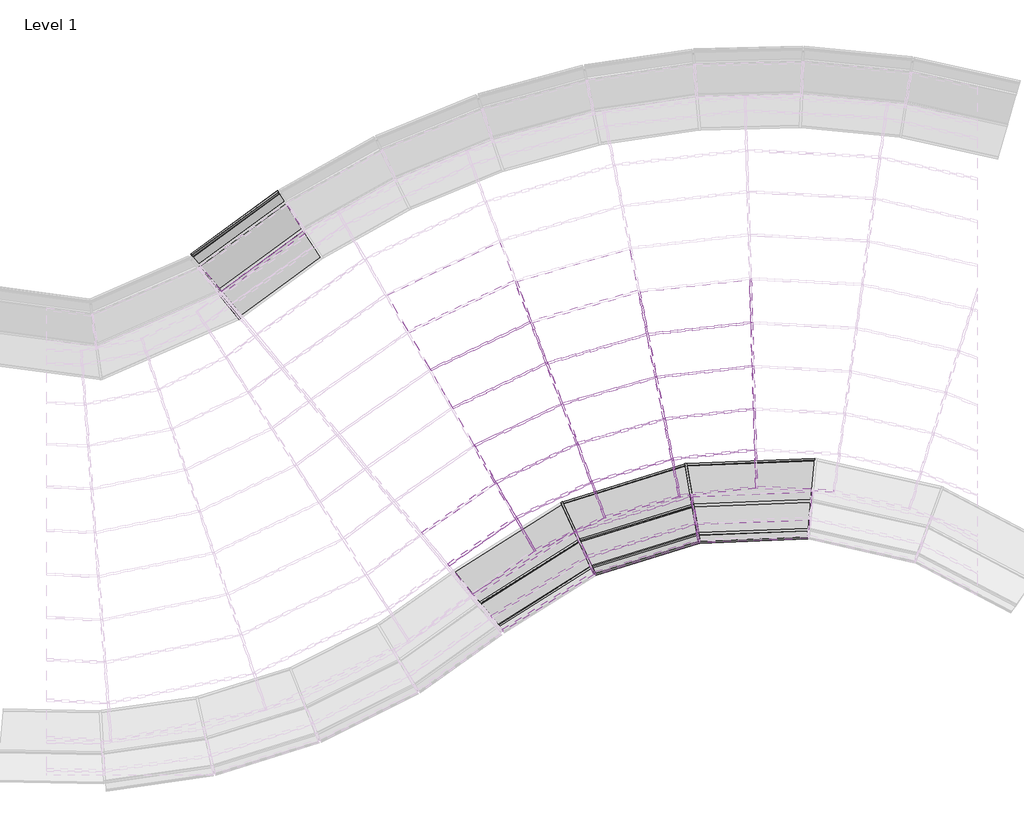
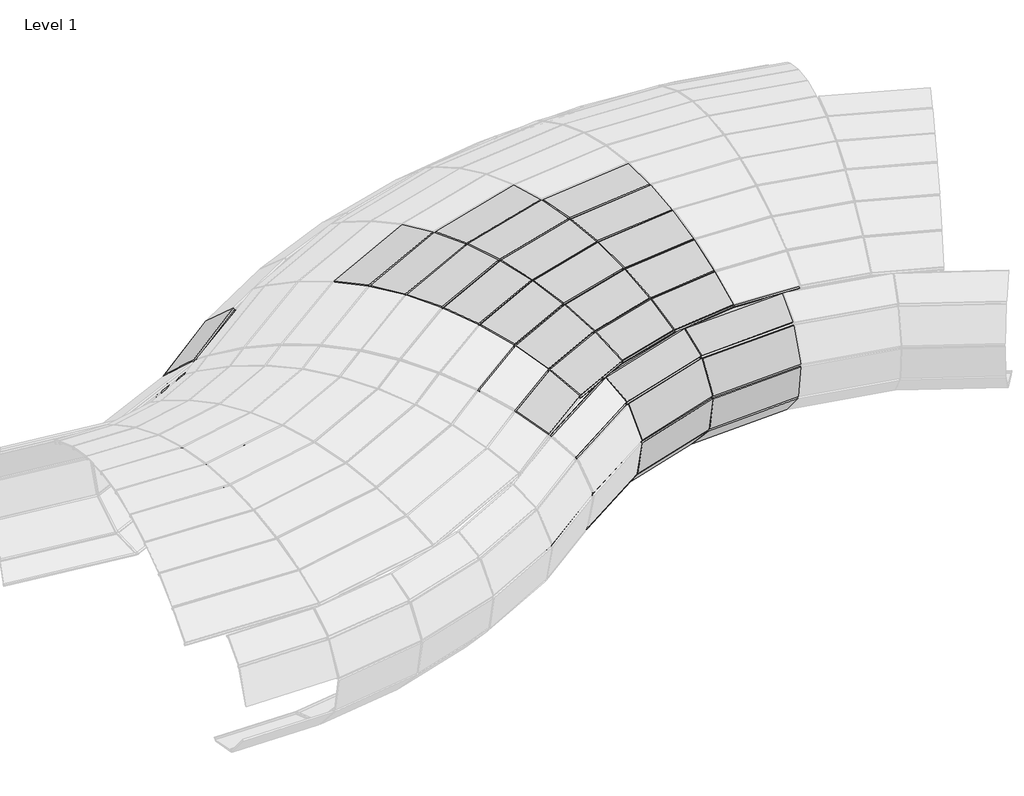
# One storey, part 8 of 23: 64 members, 36 plates.
"""IFC4 building model written with IfcOpenShell, lengths in millimetres."""

from ifc_helpers import new_model, si_unit, origin, place, context, project, spatial, transform, mapped, element, save
from components import member_a1596450, member_f2e23460, member_d6b8231b, member_a2486feb, member_bfa7dfb4, member_bff08ed3, member_8c9da58c, member_391bee44, member_01ebdf2a, member_8a20969f, member_4c2c1438, member_dcc4074c, member_4657b864, member_55ed2e9f, member_3a0dd7d7, member_3a6df916, member_088ab3f2, member_0cd36c09, member_d0141056, member_dae2b504, member_dc232313, member_e4cc2466, member_c628317b, member_562bdd2e, member_15538b30, member_3e3d858e, member_b147afb1, member_007022bd, system_panel_glazed_c5500596, system_panel_glazed_521f15da, system_panel_glazed_d2add3f3, system_panel_glazed_3632f886, system_panel_glazed_652ad043, system_panel_glazed_270d951d, system_panel_glazed_44ceaade, system_panel_glazed_ea9aaf36, system_panel_glazed_21d52e58, system_panel_glazed_aeac0244, system_panel_glazed_1a4c8fcb, system_panel_glazed_6963cb6b, system_panel_glazed_079fee55, system_panel_glazed_1b2c1e4f, system_panel_glazed_33c7ebbf, system_panel_glazed_9ff9c314, system_panel_glazed_73e28ea5, system_panel_glazed_e3c53362, system_panel_glazed_2d21b99e, system_panel_glazed_1352d32b

model = new_model("IFC4")

# Units and contexts
model_context = context("Model", 3, world=origin())
ifc_project = project(units=[si_unit("LENGTHUNIT", "METRE", prefix="MILLI")], contexts=[model_context])

# Site, building, storey
site = spatial("IfcSite", under=ifc_project)
building = spatial("IfcBuilding", under=site)
storey = spatial("IfcBuildingStorey", under=building, Name="Level 1", Elevation=0.0)

# Members
placement = place(None, origin())
member_shape = member_a1596450(model_context)
element("IfcMember", 1, ObjectType="Rectangular Mullion : 1\" Square", at=placement, inside=storey, context=model_context, shape_type="MappedRepresentation", body=[
    mapped(member_shape, transform((-1111.8650717, -7337.0860284, 629.7792003), x_axis=(0.12543134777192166, -0.40412266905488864, 0.9060639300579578), y_axis=(0.2685839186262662, -0.8653406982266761, -0.4231408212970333), z_axis=(0.9550547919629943, 0.29642932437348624, 0.0))),
])
member_2_shape = member_f2e23460(model_context)
element("IfcMember", 2, ObjectType="Rectangular Mullion : 1\" Square", at=placement, inside=storey, context=model_context, shape_type="MappedRepresentation", body=[
    mapped(member_2_shape, transform((-2753.3298579, -7433.4239268, 170.8694653), x_axis=(0.4499356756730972, -0.7143075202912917, 0.5360248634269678), y_axis=(0.2856859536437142, -0.4535484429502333, -0.8442021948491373), z_axis=(0.8461332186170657, 0.5329714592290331, 0.0))),
])
member_3_shape = member_d6b8231b(model_context)
element("IfcMember", 3, ObjectType="Rectangular Mullion : 1\" Square", at=placement, inside=storey, context=model_context, shape_type="MappedRepresentation", body=[
    mapped(member_3_shape, transform((-2987.3349348, -6895.1359054, 0.0), x_axis=(0.9083268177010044, 0.4182611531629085, 0.0), y_axis=(0.11723763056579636, -0.25460189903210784, -0.9599131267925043), z_axis=(-0.40149437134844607, 0.8719148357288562, -0.280297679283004))),
])
element("IfcMember", 4, ObjectType="Rectangular Mullion : 1\" Square", at=placement, inside=storey, context=model_context, shape_type="MappedRepresentation", body=[
    mapped(member_3_shape, transform((-1266.9851756, -6361.1747954, 0.0), x_axis=(0.9855215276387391, 0.1695503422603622, 0.0), y_axis=(0.04752456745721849, -0.276239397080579, -0.9599131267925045), z_axis=(-0.16275359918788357, 0.9460150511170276, -0.2802976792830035))),
])
member_4_shape = member_a2486feb(model_context)
element("IfcMember", 5, ObjectType="Rectangular Mullion : 1\" Square", at=placement, inside=storey, context=model_context, shape_type="MappedRepresentation", body=[
    mapped(member_4_shape, transform((-1179.8997774, -6941.630223, 170.8694653), x_axis=(0.2502462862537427, -0.8062593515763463, 0.5360248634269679), y_axis=(0.15889348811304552, -0.5119331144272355, -0.8442021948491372), z_axis=(0.9550547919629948, 0.29642932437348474, 0.0))),
])
member_5_shape = member_bfa7dfb4(model_context)
element("IfcMember", 6, ObjectType="Rectangular Mullion : 1\" Square", at=placement, inside=storey, context=model_context, shape_type="MappedRepresentation", body=[
    mapped(member_5_shape, transform((-2585.49608, -7797.9041569, 629.7792003), x_axis=(0.22552198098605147, -0.35803350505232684, 0.9060639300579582), y_axis=(0.48290621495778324, -0.7666507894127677, -0.4231408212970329), z_axis=(0.8461332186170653, 0.5329714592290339, 0.0))),
])
member_6_shape = member_bff08ed3(model_context)
element("IfcMember", 7, ObjectType="Rectangular Mullion : 1\" Square", at=placement, inside=storey, context=model_context, shape_type="MappedRepresentation", body=[
    mapped(member_6_shape, transform((-2975.2057389, -6891.371253, 0.0), x_axis=(-0.28435381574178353, 0.916149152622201, -0.2825130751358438), y_axis=(0.08374515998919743, -0.2698154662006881, -0.9592634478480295), z_axis=(-0.9550547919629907, -0.2964293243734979, 0.0))),
])
element("IfcMember", 8, ObjectType="Rectangular Mullion : 1\" Square", at=placement, inside=storey, context=model_context, shape_type="MappedRepresentation", body=[
    mapped(member_6_shape, transform((-1254.2952304, -6360.6695321, 0.0), x_axis=(-0.0381638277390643, 0.958503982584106, -0.28251307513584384), y_axis=(0.011239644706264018, -0.2822894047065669, -0.9592634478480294), z_axis=(-0.999208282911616, -0.03978451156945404, 0.0))),
])
member_7_shape = member_8c9da58c(model_context)
element("IfcMember", 9, ObjectType="Rectangular Mullion : 1\" Square", at=placement, inside=storey, context=model_context, shape_type="MappedRepresentation", body=[
    mapped(member_7_shape, transform((-2742.583966, -7426.6551893, 170.8694653), x_axis=(0.9083268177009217, 0.41826115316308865, 0.0), y_axis=(0.3148689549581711, -0.6837926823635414, -0.6582439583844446), z_axis=(-0.27531787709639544, 0.5979006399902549, -0.7528046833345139))),
])
element("IfcMember", 10, ObjectType="Rectangular Mullion : 1\" Square", at=placement, inside=storey, context=model_context, shape_type="MappedRepresentation", body=[
    mapped(member_7_shape, transform((-2574.7501881, -7791.1354194, 629.7792003), x_axis=(0.9083268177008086, 0.418261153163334, 0.0), y_axis=(0.4135473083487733, -0.8980898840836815, -0.14971033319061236), z_axis=(-0.06261801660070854, 0.13598591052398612, -0.9887299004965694))),
])
element("IfcMember", 11, ObjectType="Rectangular Mullion : 1\" Square", at=placement, inside=storey, context=model_context, shape_type="MappedRepresentation", body=[
    mapped(member_7_shape, transform((-1167.7705815, -6937.8655706, 170.8694653), x_axis=(0.9855215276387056, 0.16955034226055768, 0.0), y_axis=(0.12763829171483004, -0.7419052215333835, -0.6582439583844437), z_axis=(-0.11160548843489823, 0.6487135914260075, -0.7528046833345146))),
])
element("IfcMember", 12, ObjectType="Rectangular Mullion : 1\" Square", at=placement, inside=storey, context=model_context, shape_type="MappedRepresentation", body=[
    mapped(member_7_shape, transform((-1099.7358758, -7333.3213759, 629.7792003), x_axis=(0.9855215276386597, 0.16955034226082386, 0.0), y_axis=(0.16763949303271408, -0.9744146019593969, -0.1497103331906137), z_axis=(-0.025383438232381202, 0.1475427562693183, -0.9887299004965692))),
])
member_8_shape = member_391bee44(model_context)
element("IfcMember", 13, ObjectType="Rectangular Mullion : 1\" Square", at=placement, inside=storey, context=model_context, shape_type="MappedRepresentation", body=[
    mapped(member_8_shape, transform((-2536.5782452, -7874.0324305, 1232.5089476), x_axis=(0.9083268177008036, 0.4182611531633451, 0.0), y_axis=(0.3822613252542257, -0.8301469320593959, 0.4058723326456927), z_axis=(0.16976062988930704, -0.3686647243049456, -0.9139297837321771))),
])
element("IfcMember", 14, ObjectType="Rectangular Mullion : 1\" Square", at=placement, inside=storey, context=model_context, shape_type="MappedRepresentation", body=[
    mapped(member_8_shape, transform((-1084.2621319, -7423.2634402, 1232.5089476), x_axis=(0.9855215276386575, 0.16955034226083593, 0.0), y_axis=(0.1549571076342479, -0.9006974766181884, 0.4058723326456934), z_axis=(0.06881579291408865, -0.3999959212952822, -0.9139297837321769))),
])
member_9_shape = member_01ebdf2a(model_context)
element("IfcMember", 15, ObjectType="Rectangular Mullion : 1\" Square", at=placement, inside=storey, context=model_context, shape_type="MappedRepresentation", body=[
    mapped(member_9_shape, transform((-2640.0643252, -7649.2944145, 1789.6405438), x_axis=(0.9083268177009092, 0.4182611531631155, 0.0), y_axis=(0.24922510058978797, -0.541235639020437, 0.8030883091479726), z_axis=(0.3359006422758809, -0.7294666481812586, -0.5958600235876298))),
])
element("IfcMember", 16, ObjectType="Rectangular Mullion : 1\" Square", at=placement, inside=storey, context=model_context, shape_type="MappedRepresentation", body=[
    mapped(member_9_shape, transform((-1126.2122392, -7179.4259265, 1789.6405438), x_axis=(0.9855215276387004, 0.16955034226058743, 0.0), y_axis=(0.10102827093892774, -0.5872328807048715, 0.8030883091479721), z_axis=(0.13616389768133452, -0.7914608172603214, -0.5958600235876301))),
])
member_10_shape = member_8a20969f(model_context)
element("IfcMember", 17, ObjectType="Rectangular Mullion : 1\" Square", at=placement, inside=storey, context=model_context, shape_type="MappedRepresentation", body=[
    mapped(member_10_shape, transform((-2547.3241371, -7880.801168, 1232.5089476), x_axis=(-0.07158711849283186, 0.11365006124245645, 0.9909384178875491), y_axis=(0.5281418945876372, -0.8384659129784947, 0.13431698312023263), z_axis=(0.8461332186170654, 0.5329714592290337, 0.0))),
])
member_11_shape = member_4c2c1438(model_context)
element("IfcMember", 18, ObjectType="Rectangular Mullion : 1\" Square", at=placement, inside=storey, context=model_context, shape_type="MappedRepresentation", body=[
    mapped(member_11_shape, transform((-1096.3913277, -7427.0280926, 1232.5089476), x_axis=(-0.039815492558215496, 0.12828007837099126, 0.9909384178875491), y_axis=(0.2937432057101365, -0.9464004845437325, 0.13431698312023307), z_axis=(0.9550547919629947, 0.2964293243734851, 0.0))),
])
member_12_shape = member_dcc4074c(model_context)
element("IfcMember", 19, ObjectType="Rectangular Mullion : 1\" Square", at=placement, inside=storey, context=model_context, shape_type="MappedRepresentation", body=[
    mapped(member_12_shape, transform((-2650.8102171, -7656.0631521, 1789.6405438), x_axis=(-0.34544370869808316, 0.54841847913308, 0.7615154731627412), y_axis=(0.4058660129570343, -0.6443435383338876, 0.6481467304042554), z_axis=(0.8461332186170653, 0.5329714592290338, 0.0))),
])
member_13_shape = member_4657b864(model_context)
element("IfcMember", 20, ObjectType="Rectangular Mullion : 1\" Square", at=placement, inside=storey, context=model_context, shape_type="MappedRepresentation", body=[
    mapped(member_13_shape, transform((-1138.3414351, -7183.190579, 1789.6405438), x_axis=(-0.19212969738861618, 0.61901564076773, 0.7615154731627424), y_axis=(0.22573551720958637, -0.7272890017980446, 0.648146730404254), z_axis=(0.9550547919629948, 0.2964293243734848, 0.0))),
])
member_14_shape = member_55ed2e9f(model_context)
element("IfcMember", 21, ObjectType="Rectangular Mullion : 1\" Square", at=placement, inside=storey, context=model_context, shape_type="MappedRepresentation", body=[
    mapped(member_14_shape, transform((-2817.6547413, -7293.7312581, 2085.6089632), x_axis=(-0.4267186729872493, 0.6774487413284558, 0.5991447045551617), y_axis=(0.3193270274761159, -0.5069562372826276, 0.8006407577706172), z_axis=(0.846133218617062, 0.5329714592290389, 0.0))),
])
member_15_shape = member_3a0dd7d7(model_context)
element("IfcMember", 22, ObjectType="Rectangular Mullion : 1\" Square", at=placement, inside=storey, context=model_context, shape_type="MappedRepresentation", body=[
    mapped(member_15_shape, transform((-1205.9751275, -6790.0656875, 2085.6089632), x_axis=(-0.23733339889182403, 0.7646557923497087, 0.5991447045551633), y_axis=(0.17760405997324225, -0.5722160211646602, 0.800640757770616), z_axis=(0.9550547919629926, 0.2964293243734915, 0.0))),
])
member_16_shape = member_3a6df916(model_context)
element("IfcMember", 23, ObjectType="Rectangular Mullion : 1\" Square", at=placement, inside=storey, context=model_context, shape_type="MappedRepresentation", body=[
    mapped(member_16_shape, transform((-2993.9949592, -5535.8741986, 2763.3769688), x_axis=(-0.42081879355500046, 0.8846592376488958, 0.20072263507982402), y_axis=(0.08622265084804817, -0.18126011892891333, 0.9796481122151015), z_axis=(0.9030377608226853, 0.4295611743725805, 0.0))),
])
element("IfcMember", 24, ObjectType="Rectangular Mullion : 1\" Square", at=placement, inside=storey, context=model_context, shape_type="MappedRepresentation", body=[
    mapped(member_16_shape, transform((-1693.052363, -5162.1086673, 2763.3769688), x_axis=(-0.2690550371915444, 0.9419765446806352, 0.20072263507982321), y_axis=(0.05512738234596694, -0.19300401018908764, 0.9796481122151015), z_axis=(0.9615458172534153, 0.2746445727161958, 0.0))),
])
element("IfcMember", 25, ObjectType="Rectangular Mullion : 1\" Square", at=placement, inside=storey, context=model_context, shape_type="MappedRepresentation", body=[
    mapped(member_16_shape, transform((-348.2653143, -5008.1602847, 2763.3769688), x_axis=(-0.10991316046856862, 0.9734626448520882, 0.2007226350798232), y_axis=(0.022520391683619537, -0.1994552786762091, 0.9796481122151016), z_axis=(0.9936860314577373, 0.11219657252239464, 0.0))),
])
member_17_shape = member_088ab3f2(model_context)
element("IfcMember", 26, ObjectType="Rectangular Mullion : 1\" Square", at=placement, inside=storey, context=model_context, shape_type="MappedRepresentation", body=[
    mapped(member_17_shape, transform((-3207.1818204, -4971.4017811, 2850.17796), x_axis=(-0.42807772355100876, 0.8999192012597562, 0.08303549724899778), y_axis=(0.035668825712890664, -0.07498418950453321, 0.9965465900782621), z_axis=(0.9030377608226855, 0.4295611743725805, 0.0))),
])
element("IfcMember", 27, ObjectType="Rectangular Mullion : 1\" Square", at=placement, inside=storey, context=model_context, shape_type="MappedRepresentation", body=[
    mapped(member_17_shape, transform((-1810.1622416, -4570.193957, 2850.17796), x_axis=(-0.2736961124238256, 0.9582252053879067, 0.08303549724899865), y_axis=(0.02280524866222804, -0.07984243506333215, 0.996546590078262), z_axis=(0.9615458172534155, 0.27464457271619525, 0.0))),
])
element("IfcMember", 28, ObjectType="Rectangular Mullion : 1\" Square", at=placement, inside=storey, context=model_context, shape_type="MappedRepresentation", body=[
    mapped(member_17_shape, transform((-366.0867826, -4405.0349717, 2850.17796), x_axis=(-0.11180911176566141, 0.9902544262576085, 0.08303549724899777), y_axis=(0.00931629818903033, -0.08251121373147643, 0.9965465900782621), z_axis=(0.9936860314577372, 0.11219657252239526, 0.0))),
])
member_18_shape = member_0cd36c09(model_context)
element("IfcMember", 29, ObjectType="Rectangular Mullion : 1\" Square", at=placement, inside=storey, context=model_context, shape_type="MappedRepresentation", body=[
    mapped(member_18_shape, transform((-3624.4488944, -7109.8675314, 2378.3537392), x_axis=(0.8643700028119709, 0.5028563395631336, 0.0), y_axis=(0.18725057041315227, -0.3218688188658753, 0.9280828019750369), z_axis=(0.4666923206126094, -0.802206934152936, -0.37237388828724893))),
])
element("IfcMember", 30, ObjectType="Rectangular Mullion : 1\" Square", at=placement, inside=storey, context=model_context, shape_type="MappedRepresentation", body=[
    mapped(member_18_shape, transform((-3908.9445331, -6620.8421843, 2605.3528615), x_axis=(0.8643700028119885, 0.5028563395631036, 0.0), y_axis=(0.130353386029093, -0.2240670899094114, 0.9658167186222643), z_axis=(0.4856670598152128, -0.8348229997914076, -0.2592258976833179))),
])
element("IfcMember", 31, ObjectType="Rectangular Mullion : 1\" Square", at=placement, inside=storey, context=model_context, shape_type="MappedRepresentation", body=[
    mapped(member_18_shape, transform((-2574.6155271, -6610.4779447, 2378.3537392), x_axis=(0.9355040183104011, 0.353316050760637, 0.0), y_axis=(0.13156567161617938, -0.3483572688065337, 0.9280828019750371), z_axis=(0.3279065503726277, -0.8682251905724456, -0.3723738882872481))),
])
element("IfcMember", 32, ObjectType="Rectangular Mullion : 1\" Square", at=placement, inside=storey, context=model_context, shape_type="MappedRepresentation", body=[
    mapped(member_18_shape, transform((-2774.5073603, -6081.2078685, 2605.3528615), x_axis=(0.9355040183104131, 0.3533160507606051, 0.0), y_axis=(0.09158867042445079, -0.242506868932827, 0.9658167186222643), z_axis=(0.341238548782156, -0.9035254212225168, -0.25922589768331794))),
])
element("IfcMember", 33, ObjectType="Rectangular Mullion : 1\" Square", at=placement, inside=storey, context=model_context, shape_type="MappedRepresentation", body=[
    mapped(member_18_shape, transform((-2982.5263796, -5530.4187717, 2763.3769688), x_axis=(0.9355040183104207, 0.353316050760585, 0.0), y_axis=(0.05030869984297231, -0.13320648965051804, 0.9898106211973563), z_axis=(0.3497159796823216, -0.9259718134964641, -0.14239007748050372))),
])
element("IfcMember", 34, ObjectType="Rectangular Mullion : 1\" Square", at=placement, inside=storey, context=model_context, shape_type="MappedRepresentation", body=[
    mapped(member_18_shape, transform((-3195.7132408, -4965.9463542, 2850.17796), x_axis=(0.9355040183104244, 0.35331605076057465, 0.0), y_axis=(0.00831302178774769, -0.022011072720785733, 0.9997231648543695), z_axis=(0.3532182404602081, -0.9352450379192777, -0.023528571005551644))),
])
element("IfcMember", 35, ObjectType="Rectangular Mullion : 1\" Square", at=placement, inside=storey, context=model_context, shape_type="MappedRepresentation", body=[
    mapped(member_18_shape, transform((-1456.7631771, -6291.1878229, 2378.3537392), x_axis=(0.9809843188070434, 0.19408700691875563, 0.0), y_axis=(0.0722729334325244, -0.3652929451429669, 0.9280828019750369), z_axis=(0.18012881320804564, -0.9104346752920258, -0.37237388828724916))),
])
element("IfcMember", 36, ObjectType="Rectangular Mullion : 1\" Square", at=placement, inside=storey, context=model_context, shape_type="MappedRepresentation", body=[
    mapped(member_18_shape, transform((-1566.5697016, -5736.1868449, 2605.3528615), x_axis=(0.9809843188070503, 0.19408700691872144, 0.0), y_axis=(0.05031237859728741, -0.254296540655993, 0.9658167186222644), z_axis=(0.18745247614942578, -0.9474510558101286, -0.2592258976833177))),
])
element("IfcMember", 37, ObjectType="Rectangular Mullion : 1\" Square", at=placement, inside=storey, context=model_context, shape_type="MappedRepresentation", body=[
    mapped(member_18_shape, transform((-1680.8407311, -5158.6206813, 2763.3769688), x_axis=(0.9809843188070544, 0.19408700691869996, 0.0), y_axis=(0.027636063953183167, -0.13968243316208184, 0.9898106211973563), z_axis=(0.19210938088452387, -0.9709886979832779, -0.14239007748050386))),
])
element("IfcMember", 38, ObjectType="Rectangular Mullion : 1\" Square", at=placement, inside=storey, context=model_context, shape_type="MappedRepresentation", body=[
    mapped(member_18_shape, transform((-1797.9506097, -4566.705971, 2850.17796), x_axis=(0.9809843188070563, 0.19408700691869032, 0.0), y_axis=(0.004566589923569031, -0.023081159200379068, 0.9997231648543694), z_axis=(0.19403327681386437, -0.9807127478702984, -0.023528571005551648))),
])
element("IfcMember", 39, ObjectType="Rectangular Mullion : 1\" Square", at=placement, inside=storey, context=model_context, shape_type="MappedRepresentation", body=[
    mapped(member_18_shape, transform((-301.5459784, -6160.7528504, 2378.3537392), x_axis=(0.9995637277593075, 0.02953564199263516, 0.0), y_axis=(0.010998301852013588, -0.3722114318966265, 0.9280828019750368), z_axis=(0.027411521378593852, -0.9276779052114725, -0.3723738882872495))),
])
element("IfcMember", 40, ObjectType="Rectangular Mullion : 1\" Square", at=placement, inside=storey, context=model_context, shape_type="MappedRepresentation", body=[
    mapped(member_18_shape, transform((-318.2560418, -5595.2403994, 2605.3528615), x_axis=(0.9995637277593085, 0.029535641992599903, 0.0), y_axis=(0.00765640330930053, -0.2591128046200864, 0.9658167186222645), z_axis=(0.02852601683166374, -0.9653953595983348, -0.25922589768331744))),
])
element("IfcMember", 41, ObjectType="Rectangular Mullion : 1\" Square", at=placement, inside=storey, context=model_context, shape_type="MappedRepresentation", body=[
    mapped(member_18_shape, transform((-335.6455017, -5006.7353882, 2763.3769688), x_axis=(0.9995637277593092, 0.02953564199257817, 0.0), y_axis=(0.004205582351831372, -0.14232795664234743, 0.9898106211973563), z_axis=(0.02923469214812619, -0.989378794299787, -0.14239007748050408))),
])
element("IfcMember", 42, ObjectType="Rectangular Mullion : 1\" Square", at=placement, inside=storey, context=model_context, shape_type="MappedRepresentation", body=[
    mapped(member_18_shape, transform((-353.46697, -4403.6100752, 2850.17796), x_axis=(0.9995637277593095, 0.029535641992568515, 0.0), y_axis=(0.0006949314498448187, -0.023518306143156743, 0.9997231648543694), z_axis=(0.02952746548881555, -0.9992870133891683, -0.02352857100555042))),
])
element("IfcMember", 43, ObjectType="Rectangular Mullion : 1\" Square", at=placement, inside=storey, context=model_context, shape_type="MappedRepresentation", body=[
    mapped(member_18_shape, transform((-3411.0350802, -4395.8209791, 2864.5209769), x_axis=(0.935504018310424, 0.3533160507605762, 0.0), y_axis=(-0.033800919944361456, 0.08949748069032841, 0.9954133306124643), z_axis=(0.35169550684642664, -0.9312131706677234, 0.095667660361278))),
])
member_19_shape = member_d0141056(model_context)
element("IfcMember", 44, ObjectType="Rectangular Mullion : 1\" Square", at=placement, inside=storey, context=model_context, shape_type="MappedRepresentation", body=[
    mapped(member_19_shape, transform((-1578.7813335, -5739.674831, 2605.3528615), x_axis=(-0.2606075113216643, 0.9124012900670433, 0.3156067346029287), y_axis=(0.08667967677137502, -0.3034703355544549, 0.9488900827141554), z_axis=(0.9615458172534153, 0.2746445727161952, 0.0))),
])
element("IfcMember", 45, ObjectType="Rectangular Mullion : 1\" Square", at=placement, inside=storey, context=model_context, shape_type="MappedRepresentation", body=[
    mapped(member_19_shape, transform((-2785.9759398, -6086.6632954, 2605.3528615), x_axis=(-0.40760633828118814, 0.8568835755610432, 0.31560673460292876), y_axis=(0.1355723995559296, -0.28500479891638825, 0.9488900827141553), z_axis=(0.903037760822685, 0.42956117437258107, 0.0))),
])
element("IfcMember", 46, ObjectType="Rectangular Mullion : 1\" Square", at=placement, inside=storey, context=model_context, shape_type="MappedRepresentation", body=[
    mapped(member_19_shape, transform((-330.8758544, -5596.6652959, 2605.3528615), x_axis=(-0.1064622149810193, 0.9428988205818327, 0.3156067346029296), y_axis=(0.035409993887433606, -0.31361400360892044, 0.9488900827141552), z_axis=(0.9936860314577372, 0.11219657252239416, 0.0))),
])
member_20_shape = member_dae2b504(model_context)
element("IfcMember", 47, ObjectType="Rectangular Mullion : 1\" Square", at=placement, inside=storey, context=model_context, shape_type="MappedRepresentation", body=[
    mapped(member_20_shape, transform((-3919.3555649, -6628.1154515, 2605.3528615), x_axis=(-0.5434276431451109, 0.7778681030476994, 0.3156067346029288), y_axis=(0.18074740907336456, -0.25872376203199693, 0.9488900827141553), z_axis=(0.8197662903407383, 0.5726982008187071, 0.0))),
])
member_21_shape = member_dc232313(model_context)
element("IfcMember", 48, ObjectType="Rectangular Mullion : 1\" Square", at=placement, inside=storey, context=model_context, shape_type="MappedRepresentation", body=[
    mapped(member_21_shape, transform((-314.165791, -6162.1777469, 2378.3537392), x_axis=(-0.10150277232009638, 0.8989747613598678, 0.4260769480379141), y_axis=(0.04780437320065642, -0.4233867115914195, 0.9046869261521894), z_axis=(0.9936860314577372, 0.11219657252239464, 0.0))),
])
element("IfcMember", 49, ObjectType="Rectangular Mullion : 1\" Square", at=placement, inside=storey, context=model_context, shape_type="MappedRepresentation", body=[
    mapped(member_21_shape, transform((-1468.974809, -6294.675809, 2378.3537392), x_axis=(-0.24846735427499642, 0.8698979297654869, 0.42607694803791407), y_axis=(0.11701972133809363, -0.40969250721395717, 0.9046869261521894), z_axis=(0.9615458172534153, 0.27464457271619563, 0.0))),
])
element("IfcMember", 50, ObjectType="Rectangular Mullion : 1\" Square", at=placement, inside=storey, context=model_context, shape_type="MappedRepresentation", body=[
    mapped(member_21_shape, transform((-2586.0841067, -6615.9333716, 2378.3537392), x_axis=(-0.3886183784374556, 0.8169664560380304, 0.42607694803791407), y_axis=(0.18302611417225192, -0.3847635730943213, 0.9046869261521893), z_axis=(0.9030377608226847, 0.4295611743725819, 0.0))),
])
member_22_shape = member_e4cc2466(model_context)
element("IfcMember", 51, ObjectType="Rectangular Mullion : 1\" Square", at=placement, inside=storey, context=model_context, shape_type="MappedRepresentation", body=[
    mapped(member_22_shape, transform((-3355.5675817, -7572.0530956, 2085.6089632), x_axis=(0.8643700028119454, 0.5028563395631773, 0.0), y_axis=(0.24148386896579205, -0.41509154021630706, 0.8771456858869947), z_axis=(0.44107826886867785, -0.758178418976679, -0.4802243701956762))),
])
element("IfcMember", 52, ObjectType="Rectangular Mullion : 1\" Square", at=placement, inside=storey, context=model_context, shape_type="MappedRepresentation", body=[
    mapped(member_22_shape, transform((-2385.6946047, -7110.6994368, 2085.6089632), x_axis=(0.9355040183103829, 0.3533160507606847, 0.0), y_axis=(0.16967097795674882, -0.44925182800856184, 0.8771456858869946), z_axis=(0.309909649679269, -0.8205733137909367, -0.4802243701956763))),
])
element("IfcMember", 53, ObjectType="Rectangular Mullion : 1\" Square", at=placement, inside=storey, context=model_context, shape_type="MappedRepresentation", body=[
    mapped(member_22_shape, transform((-1352.9832998, -6815.727996, 2085.6089632), x_axis=(0.9809843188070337, 0.19408700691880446, 0.0), y_axis=(0.09320531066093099, -0.471092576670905, 0.877145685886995), z_axis=(0.1702425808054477, -0.8604661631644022, -0.48022437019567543))),
])
element("IfcMember", 54, ObjectType="Rectangular Mullion : 1\" Square", at=placement, inside=storey, context=model_context, shape_type="MappedRepresentation", body=[
    mapped(member_22_shape, transform((-285.753034, -6695.2275823, 2085.6089632), x_axis=(0.999563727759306, 0.02953564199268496, 0.0), y_axis=(0.014183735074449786, -0.48001486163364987, 0.8771456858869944), z_axis=(0.02590706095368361, -0.8767630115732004, -0.48022437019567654))),
])
member_23_shape = member_c628317b(model_context)
element("IfcMember", 55, ObjectType="Rectangular Mullion : 1\" Square", at=placement, inside=storey, context=model_context, shape_type="MappedRepresentation", body=[
    mapped(member_23_shape, transform((-3422.5036598, -4401.276406, 2864.5209769), x_axis=(-0.42928564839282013, 0.9024585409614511, -0.035810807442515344), y_axis=(-0.015382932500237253, 0.03233851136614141, 0.999358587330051), z_axis=(0.9030377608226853, 0.42956117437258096, 0.0))),
])
member_24_shape = member_562bdd2e(model_context)
element("IfcMember", 56, ObjectType="Rectangular Mullion : 1\" Square", at=placement, inside=storey, context=model_context, shape_type="MappedRepresentation", body=[
    mapped(member_24_shape, transform((-3634.8599263, -7117.1407985, 2378.3537392), x_axis=(-0.5181125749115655, 0.7416318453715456, 0.42607694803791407), y_axis=(0.2440135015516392, -0.3492835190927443, 0.9046869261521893), z_axis=(0.8197662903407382, 0.5726982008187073, 0.0))),
])
member_25_shape = member_15538b30(model_context)
element("IfcMember", 57, ObjectType="Rectangular Mullion : 1\" Square", at=placement, inside=storey, context=model_context, shape_type="MappedRepresentation", body=[
    mapped(member_25_shape, transform((-3344.0990022, -7566.5976687, 2085.6089632), x_axis=(0.3764881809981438, -0.7914659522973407, -0.4814958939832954), y_axis=(0.20683194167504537, -0.4348089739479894, 0.8764483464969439), z_axis=(-0.9030377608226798, -0.429561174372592, 0.0))),
])
element("IfcMember", 58, ObjectType="Rectangular Mullion : 1\" Square", at=placement, inside=storey, context=model_context, shape_type="MappedRepresentation", body=[
    mapped(member_25_shape, transform((-2373.4829728, -7107.2114507, 2085.6089632), x_axis=(0.24071178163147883, -0.8427452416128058, -0.4814958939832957), y_axis=(0.13224023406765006, -0.46298036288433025, 0.8764483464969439), z_axis=(-0.9615458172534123, -0.27464457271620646, 0.0))),
])
element("IfcMember", 59, ObjectType="Rectangular Mullion : 1\" Square", at=placement, inside=storey, context=model_context, shape_type="MappedRepresentation", body=[
    mapped(member_25_shape, transform((-1340.3634872, -6814.3030995, 2085.6089632), x_axis=(0.0983345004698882, -0.8709144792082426, -0.4814958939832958), y_axis=(0.05402218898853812, -0.4784557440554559, 0.8764483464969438), z_axis=(-0.9936860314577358, -0.11219657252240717, 0.0))),
])
element("IfcMember", 60, ObjectType="Rectangular Mullion : 1\" Square", at=placement, inside=storey, context=model_context, shape_type="MappedRepresentation", body=[
    mapped(member_25_shape, transform((-273.0711056, -6695.9048494, 2085.6089632), x_axis=(-0.0467393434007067, -0.8752011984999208, -0.4814958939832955), y_axis=(-0.025677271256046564, -0.48081074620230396, 0.8764483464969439), z_axis=(-0.9985770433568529, 0.05332812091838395, 0.0))),
])
element("IfcMember", 61, ObjectType="Rectangular Mullion : 1\" Square", at=placement, inside=storey, context=model_context, shape_type="MappedRepresentation", body=[
    mapped(member_9_shape, transform((-7754.5170849, -3976.7167342, 113.4427618), x_axis=(0.7730505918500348, 0.634344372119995, 0.0), y_axis=(-0.14487743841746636, 0.17655644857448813, -0.9735698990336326), z_axis=(-0.6175785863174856, 0.7526187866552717, 0.22838925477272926))),
])
member_26_shape = member_3e3d858e(model_context)
element("IfcMember", 62, ObjectType="Rectangular Mullion : 1\" Square", at=placement, inside=storey, context=model_context, shape_type="MappedRepresentation", body=[
    mapped(member_26_shape, transform((-7686.1774394, -3989.9190153, 2085.6089632), x_axis=(0.4544892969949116, -0.6207954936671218, 0.6387898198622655), y_axis=(-0.37734624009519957, 0.5154243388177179, 0.7693812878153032), z_axis=(-0.8068762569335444, -0.5907204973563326, 0.0))),
])
member_27_shape = member_b147afb1(model_context)
element("IfcMember", 63, ObjectType="Rectangular Mullion : 1\" Square", at=placement, inside=storey, context=model_context, shape_type="MappedRepresentation", body=[
    mapped(member_27_shape, transform((-7740.012547, -3964.7474807, 113.4427618), x_axis=(-0.7867125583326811, -0.6165764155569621, -0.030279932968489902), y_axis=(-0.40086938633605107, 0.5475550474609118, -0.734497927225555), z_axis=(0.46945402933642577, -0.5657004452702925, -0.677935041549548))),
])
member_28_shape = member_007022bd(model_context)
element("IfcMember", 64, ObjectType="Rectangular Mullion : 1\" Square", at=placement, inside=storey, context=model_context, shape_type="MappedRepresentation", body=[
    mapped(member_28_shape, transform((-7740.012547, -3964.7474807, 113.4427618), x_axis=(0.7696248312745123, 0.6384960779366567, 0.0006144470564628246), y_axis=(-0.1453653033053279, 0.17615606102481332, -0.973569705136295), z_axis=(-0.6217286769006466, 0.74919410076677, 0.22838925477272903))),
])

# Plates
system_panel_glazed_shape = system_panel_glazed_c5500596(model_context)
element("IfcPlate", 65, ObjectType="System Panel : Glazed", at=placement, inside=storey, context=model_context, shape_type="MappedRepresentation", body=[
    mapped(system_panel_glazed_shape, transform((-3731.0076368, -7392.364483, 7.1758321), x_axis=(0.8461332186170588, 0.5329714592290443, 0.0), y_axis=(-0.1505714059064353, 0.23904369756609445, 0.9592634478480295), z_axis=(0.5112600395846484, -0.8116646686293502, 0.28251307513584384))),
])
system_panel_glazed_2_shape = system_panel_glazed_521f15da(model_context)
element("IfcPlate", 66, ObjectType="System Panel : Glazed", at=placement, inside=storey, context=model_context, shape_type="MappedRepresentation", body=[
    mapped(system_panel_glazed_2_shape, transform((-2119.9374683, -6651.4255389, 7.1758321), x_axis=(0.9550547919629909, 0.29642932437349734, 0.0), y_axis=(-0.08374515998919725, 0.26981546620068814, 0.9592634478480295), z_axis=(0.284353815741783, -0.9161491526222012, 0.2825130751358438))),
])
element("IfcPlate", 67, ObjectType="System Panel : Glazed", at=placement, inside=storey, context=model_context, shape_type="MappedRepresentation", body=[
    mapped(system_panel_glazed_2_shape, transform((-366.0738721, -6349.6886771, 7.1758321), x_axis=(0.999208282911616, 0.039784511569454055, 0.0), y_axis=(-0.011239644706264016, 0.2822894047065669, 0.9592634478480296), z_axis=(0.038163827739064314, -0.958503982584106, 0.28251307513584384))),
])
system_panel_glazed_3_shape = system_panel_glazed_d2add3f3(model_context)
element("IfcPlate", 68, ObjectType="System Panel : Glazed", at=placement, inside=storey, context=model_context, shape_type="MappedRepresentation", body=[
    mapped(system_panel_glazed_3_shape, transform((-3430.3622695, -7869.7123109, 180.4653952), x_axis=(0.8461332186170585, 0.5329714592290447, 0.0), y_axis=(-0.40270525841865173, 0.639325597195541, 0.6550505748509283), z_axis=(0.34912326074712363, -0.5542600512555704, 0.7555850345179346))),
])
system_panel_glazed_4_shape = system_panel_glazed_3632f886(model_context)
element("IfcPlate", 69, ObjectType="System Panel : Glazed", at=placement, inside=storey, context=model_context, shape_type="MappedRepresentation", body=[
    mapped(system_panel_glazed_4_shape, transform((-1952.711236, -7190.2056167, 180.4653952), x_axis=(0.9550547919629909, 0.2964293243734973, 0.0), y_axis=(-0.22397756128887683, 0.7216251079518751, 0.6550505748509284), z_axis=(0.19417619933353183, -0.6256091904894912, 0.7555850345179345))),
])
element("IfcPlate", 70, ObjectType="System Panel : Glazed", at=placement, inside=storey, context=model_context, shape_type="MappedRepresentation", body=[
    mapped(system_panel_glazed_4_shape, transform((-343.6300266, -6913.3772957, 180.4653952), x_axis=(0.999208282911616, 0.039784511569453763, 0.0), y_axis=(-0.030060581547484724, 0.7549868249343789, 0.6550505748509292), z_axis=(0.026060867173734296, -0.6545319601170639, 0.7555850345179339))),
])
system_panel_glazed_5_shape = system_panel_glazed_652ad043(model_context)
element("IfcPlate", 71, ObjectType="System Panel : Glazed", at=placement, inside=storey, context=model_context, shape_type="MappedRepresentation", body=[
    mapped(system_panel_glazed_5_shape, transform((-1836.6841165, -7564.0291469, 642.3384564), x_axis=(0.9550547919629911, 0.2964293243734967, 0.0), y_axis=(-0.2931442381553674, 0.9444706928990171, 0.14846402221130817), z_axis=(0.044009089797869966, -0.1417912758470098, 0.9889178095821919))),
])
element("IfcPlate", 72, ObjectType="System Panel : Glazed", at=placement, inside=storey, context=model_context, shape_type="MappedRepresentation", body=[
    mapped(system_panel_glazed_5_shape, transform((-328.0577404, -7304.4831996, 642.3384564), x_axis=(0.999208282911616, 0.039784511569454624, 0.0), y_axis=(-0.03934361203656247, 0.9881348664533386, 0.14846402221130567), z_axis=(0.005906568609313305, -0.14834648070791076, 0.9889178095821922))),
])
system_panel_glazed_6_shape = system_panel_glazed_270d951d(model_context)
element("IfcPlate", 73, ObjectType="System Panel : Glazed", at=placement, inside=storey, context=model_context, shape_type="MappedRepresentation", body=[
    mapped(system_panel_glazed_6_shape, transform((-1811.9372688, -7643.7601099, 1244.1320982), x_axis=(0.9550547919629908, 0.2964293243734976, 0.0), y_axis=(-0.2712946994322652, 0.8740744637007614, -0.4029801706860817), z_axis=(-0.11945513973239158, 0.38486814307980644, 0.9152087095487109))),
])
element("IfcPlate", 74, ObjectType="System Panel : Glazed", at=placement, inside=storey, context=model_context, shape_type="MappedRepresentation", body=[
    mapped(system_panel_glazed_6_shape, transform((-324.7364048, -7387.9002343, 1244.1320982), x_axis=(0.9992082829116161, 0.039784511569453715, 0.0), y_axis=(-0.03641113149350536, 0.9144841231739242, -0.40298017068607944), z_axis=(-0.016032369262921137, 0.4026611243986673, 0.9152087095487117))),
])
system_panel_glazed_7_shape = system_panel_glazed_44ceaade(model_context)
element("IfcPlate", 75, ObjectType="System Panel : Glazed", at=placement, inside=storey, context=model_context, shape_type="MappedRepresentation", body=[
    mapped(system_panel_glazed_7_shape, transform((-1886.1524164, -7404.649042, 1797.2496815), x_axis=(0.955054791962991, 0.2964293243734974, 0.0), y_axis=(-0.17760405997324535, 0.5722160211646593, -0.800640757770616), z_axis=(-0.23733339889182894, 0.7646557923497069, 0.5991447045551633))),
])
element("IfcPlate", 76, ObjectType="System Panel : Glazed", at=placement, inside=storey, context=model_context, shape_type="MappedRepresentation", body=[
    mapped(system_panel_glazed_7_shape, transform((-334.6970031, -7137.7347342, 1797.2496815), x_axis=(0.9992082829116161, 0.039784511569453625, 0.0), y_axis=(-0.02383667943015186, 0.598670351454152, -0.8006407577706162), z_axis=(-0.031853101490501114, 0.8000068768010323, 0.5991447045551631))),
])
system_panel_glazed_8_shape = system_panel_glazed_ea9aaf36(model_context)
element("IfcPlate", 77, ObjectType="System Panel : Glazed", at=placement, inside=storey, context=model_context, shape_type="MappedRepresentation", body=[
    mapped(system_panel_glazed_8_shape, transform((-3803.316797, -7857.6996082, 2097.8389589), x_axis=(0.8197662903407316, 0.5726982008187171, 0.0), y_axis=(-0.27575183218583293, 0.3947141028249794, -0.8764483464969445), z_axis=(-0.5019403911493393, 0.7184828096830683, 0.4814958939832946))),
])
system_panel_glazed_9_shape = system_panel_glazed_21d52e58(model_context)
element("IfcPlate", 78, ObjectType="System Panel : Glazed", at=placement, inside=storey, context=model_context, shape_type="MappedRepresentation", body=[
    mapped(system_panel_glazed_9_shape, transform((-2880.193893, -7321.273031, 2097.8389589), x_axis=(0.9030377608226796, 0.4295611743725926, 0.0), y_axis=(-0.20683194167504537, 0.43480897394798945, -0.8764483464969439), z_axis=(-0.37648818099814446, 0.7914659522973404, 0.4814958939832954))),
])
element("IfcPlate", 79, ObjectType="System Panel : Glazed", at=placement, inside=storey, context=model_context, shape_type="MappedRepresentation", body=[
    mapped(system_panel_glazed_9_shape, transform((-1875.4530315, -6941.8079872, 2097.8389589), x_axis=(0.961545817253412, 0.27464457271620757, 0.0), y_axis=(-0.13224023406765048, 0.4629803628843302, -0.8764483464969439), z_axis=(-0.2407117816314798, 0.8427452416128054, 0.4814958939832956))),
])
element("IfcPlate", 80, ObjectType="System Panel : Glazed", at=placement, inside=storey, context=model_context, shape_type="MappedRepresentation", body=[
    mapped(system_panel_glazed_9_shape, transform((-821.8658632, -6733.3565614, 2097.8389589), x_axis=(0.9936860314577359, 0.1121965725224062, 0.0), y_axis=(-0.054022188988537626, 0.4784557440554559, -0.8764483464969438), z_axis=(-0.09833450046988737, 0.8709144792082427, 0.4814958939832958))),
])
system_panel_glazed_10_shape = system_panel_glazed_aeac0244(model_context)
element("IfcPlate", 81, ObjectType="System Panel : Glazed", at=placement, inside=storey, context=model_context, shape_type="MappedRepresentation", body=[
    mapped(system_panel_glazed_10_shape, transform((-3104.5928773, -6849.5340369, 2383.0969125), x_axis=(0.90303776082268, 0.42956117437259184, 0.0), y_axis=(-0.16043173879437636, 0.3372649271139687, -0.9276389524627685), z_axis=(-0.39847767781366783, 0.8376930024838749, 0.3734782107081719))),
])
element("IfcPlate", 82, ObjectType="System Panel : Glazed", at=placement, inside=storey, context=model_context, shape_type="MappedRepresentation", body=[
    mapped(system_panel_glazed_10_shape, transform((-2018.9249439, -6439.5048984, 2383.0969125), x_axis=(0.961545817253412, 0.2746445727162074, 0.0), y_axis=(-0.10257376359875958, 0.35911641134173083, -0.9276389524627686), z_axis=(-0.25477100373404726, 0.8919673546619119, 0.3734782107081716))),
])
element("IfcPlate", 83, ObjectType="System Panel : Glazed", at=placement, inside=storey, context=model_context, shape_type="MappedRepresentation", body=[
    mapped(system_panel_glazed_10_shape, transform((-880.4763672, -6214.2637069, 2383.0969125), x_axis=(0.9936860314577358, 0.1121965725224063, 0.0), y_axis=(-0.04190297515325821, 0.3711200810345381, -0.927638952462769), z_axis=(-0.1040779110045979, 0.9217818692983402, 0.3734782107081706))),
])
system_panel_glazed_11_shape = system_panel_glazed_1a4c8fcb(model_context)
element("IfcPlate", 84, ObjectType="System Panel : Glazed", at=placement, inside=storey, context=model_context, shape_type="MappedRepresentation", body=[
    mapped(system_panel_glazed_11_shape, transform((-3346.9936676, -6339.9510486, 2608.6556077), x_axis=(0.9030377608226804, 0.42956117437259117, 0.0), y_axis=(-0.11171114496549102, 0.2348428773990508, -0.9655927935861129), z_axis=(-0.41478117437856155, 0.8719667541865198, 0.2600587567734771))),
])
element("IfcPlate", 85, ObjectType="System Panel : Glazed", at=placement, inside=storey, context=model_context, shape_type="MappedRepresentation", body=[
    mapped(system_panel_glazed_11_shape, transform((-2173.9065052, -5896.905893, 2608.6556077), x_axis=(0.961545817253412, 0.2746445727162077, 0.0), y_axis=(-0.07142372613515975, 0.25005840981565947, -0.9655927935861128), z_axis=(-0.2651948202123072, 0.9284617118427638, 0.26005875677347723))),
])
element("IfcPlate", 86, ObjectType="System Panel : Glazed", at=placement, inside=storey, context=model_context, shape_type="MappedRepresentation", body=[
    mapped(system_panel_glazed_11_shape, transform((-943.7887415, -5653.528022, 2608.6556077), x_axis=(0.9936860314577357, 0.11219657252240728, 0.0), y_axis=(-0.029177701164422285, 0.25841675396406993, -0.9655927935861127), z_axis=(-0.10833620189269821, 0.9594960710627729, 0.260058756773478))),
])
system_panel_glazed_12_shape = system_panel_glazed_6963cb6b(model_context)
element("IfcPlate", 87, ObjectType="System Panel : Glazed", at=placement, inside=storey, context=model_context, shape_type="MappedRepresentation", body=[
    mapped(system_panel_glazed_12_shape, transform((-3599.1662378, -5809.8255001, 2765.1914265), x_axis=(0.9030377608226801, 0.4295611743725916, 0.0), y_axis=(-0.06137170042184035, 0.1290176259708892, -0.9897413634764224), z_axis=(-0.42515446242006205, 0.8937738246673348, 0.14287068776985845))),
])
element("IfcPlate", 88, ObjectType="System Panel : Glazed", at=placement, inside=storey, context=model_context, shape_type="MappedRepresentation", body=[
    mapped(system_panel_glazed_12_shape, transform((-2335.1357594, -5332.4333693, 2765.1914265), x_axis=(0.961545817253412, 0.27464457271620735, 0.0), y_axis=(-0.03923865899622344, 0.13737671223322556, -0.9897413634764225), z_axis=(-0.27182709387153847, 0.9516816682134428, 0.1428706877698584))),
])
element("IfcPlate", 89, ObjectType="System Panel : Glazed", at=placement, inside=storey, context=model_context, shape_type="MappedRepresentation", body=[
    mapped(system_panel_glazed_12_shape, transform((-1009.6533953, -5070.1876842, 2765.1914265), x_axis=(0.9936860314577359, 0.11219657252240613, 0.0), y_axis=(-0.016029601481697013, 0.14196860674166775, -0.9897413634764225), z_axis=(-0.11104558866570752, 0.9834921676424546, 0.14287068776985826))),
])
system_panel_glazed_13_shape = system_panel_glazed_079fee55(model_context)
element("IfcPlate", 90, ObjectType="System Panel : Glazed", at=placement, inside=storey, context=model_context, shape_type="MappedRepresentation", body=[
    mapped(system_panel_glazed_13_shape, transform((-3857.522993, -5266.6993528, 2850.4778018), x_axis=(0.9030377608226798, 0.42956117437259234, 0.0), y_axis=(-0.010141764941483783, 0.02132035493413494, -0.9997212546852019), z_axis=(-0.4294414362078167, 0.9027860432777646, 0.02360959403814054))),
])
element("IfcPlate", 91, ObjectType="System Panel : Glazed", at=placement, inside=storey, context=model_context, shape_type="MappedRepresentation", body=[
    mapped(system_panel_glazed_13_shape, transform((-2500.3189391, -4754.1179347, 2850.4778018), x_axis=(0.9615458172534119, 0.2746445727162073, 0.0), y_axis=(-0.00648424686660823, 0.02270170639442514, -0.9997212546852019), z_axis=(-0.27456801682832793, 0.9612777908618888, 0.023609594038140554))),
])
element("IfcPlate", 92, ObjectType="System Panel : Glazed", at=placement, inside=storey, context=model_context, shape_type="MappedRepresentation", body=[
    mapped(system_panel_glazed_13_shape, transform((-1077.1332891, -4472.5417282, 2850.4778018), x_axis=(0.9936860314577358, 0.11219657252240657, 0.0), y_axis=(-0.0026489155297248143, 0.023460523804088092, -0.9997212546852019), z_axis=(-0.11216529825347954, 0.9934090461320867, 0.023609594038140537))),
])
system_panel_glazed_14_shape = system_panel_glazed_1b2c1e4f(model_context)
element("IfcPlate", 93, ObjectType="System Panel : Glazed", at=placement, inside=storey, context=model_context, shape_type="MappedRepresentation", body=[
    mapped(system_panel_glazed_14_shape, transform((-4118.3884212, -4718.2993898, 2863.3018499), x_axis=(0.9030377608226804, 0.42956117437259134, 0.0), y_axis=(0.04123540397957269, -0.08668643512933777, -0.9953818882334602), z_axis=(-0.4275774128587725, 0.8988674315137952, -0.09599425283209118))),
])
element("IfcPlate", 94, ObjectType="System Panel : Glazed", at=placement, inside=storey, context=model_context, shape_type="MappedRepresentation", body=[
    mapped(system_panel_glazed_14_shape, transform((-2667.1060659, -4170.1869923, 2863.3018499), x_axis=(0.961545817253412, 0.27464457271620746, 0.0), y_axis=(0.026364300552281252, -0.09230287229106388, -0.9953818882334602), z_axis=(-0.27337623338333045, 0.9571052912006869, -0.0959942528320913))),
])
system_panel_glazed_15_shape = system_panel_glazed_33c7ebbf(model_context)
element("IfcPlate", 95, ObjectType="System Panel : Glazed", at=placement, inside=storey, context=model_context, shape_type="MappedRepresentation", body=[
    mapped(system_panel_glazed_15_shape, transform((-4378.0513889, -4172.427279, 2803.4815699), x_axis=(0.9030377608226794, 0.42956117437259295, 0.0), y_axis=(0.09201407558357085, -0.19343504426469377, -0.9767887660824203), z_axis=(-0.4195905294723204, 0.8820771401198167, -0.21420482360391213))),
])
system_panel_glazed_16_shape = system_panel_glazed_9ff9c314(model_context)
element("IfcPlate", 96, ObjectType="System Panel : Glazed", at=placement, inside=storey, context=model_context, shape_type="MappedRepresentation", body=[
    mapped(system_panel_glazed_16_shape, transform((-7129.2735474, -3557.9855859, 2069.3837017), x_axis=(0.8068762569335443, 0.5907204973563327, 0.0), y_axis=(0.3773462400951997, -0.5154243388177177, -0.7693812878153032), z_axis=(-0.45448929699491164, 0.6207954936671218, -0.6387898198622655))),
])
system_panel_glazed_17_shape = system_panel_glazed_73e28ea5(model_context)
element("IfcPlate", 97, ObjectType="System Panel : Glazed", at=placement, inside=storey, context=model_context, shape_type="MappedRepresentation", body=[
    mapped(system_panel_glazed_17_shape, transform((-7396.7770208, -3192.6074606, 1684.5336808), x_axis=(0.8068762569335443, 0.5907204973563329, 0.0), y_axis=(0.5625568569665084, -0.7684070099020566, -0.30509088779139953), z_axis=(-0.18022344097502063, 0.24617059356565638, -0.9523232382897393))),
])
system_panel_glazed_18_shape = system_panel_glazed_e3c53362(model_context)
element("IfcPlate", 98, ObjectType="System Panel : Glazed", at=placement, inside=storey, context=model_context, shape_type="MappedRepresentation", body=[
    mapped(system_panel_glazed_18_shape, transform((-7502.4255285, -3048.3007375, 1103.9095249), x_axis=(0.8068762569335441, 0.590720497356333, 0.0), y_axis=(0.571291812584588, -0.780338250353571, 0.25435777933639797), z_axis=(0.15025435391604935, -0.20523525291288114, -0.9671101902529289))),
])
system_panel_glazed_19_shape = system_panel_glazed_2d21b99e(model_context)
element("IfcPlate", 99, ObjectType="System Panel : Glazed", at=placement, inside=storey, context=model_context, shape_type="MappedRepresentation", body=[
    mapped(system_panel_glazed_19_shape, transform((-7407.2348503, -3178.3140469, 518.0936043), x_axis=(0.8068762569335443, 0.5907204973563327, 0.0), y_axis=(0.40086938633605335, -0.5475550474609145, 0.7344979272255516), z_axis=(0.43388298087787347, -0.5926489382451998, -0.6786109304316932))),
])
system_panel_glazed_20_shape = system_panel_glazed_1352d32b(model_context)
element("IfcPlate", 100, ObjectType="System Panel : Glazed", at=placement, inside=storey, context=model_context, shape_type="MappedRepresentation", body=[
    mapped(system_panel_glazed_20_shape, transform((-7141.2065083, -3541.6790701, 110.5371405), x_axis=(0.8068762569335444, 0.5907204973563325, 0.0), y_axis=(0.13515039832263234, -0.18460447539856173, 0.9734760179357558), z_axis=(0.5750522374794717, -0.7854746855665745, -0.22878907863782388))),
])

save(model, "model.ifc")
